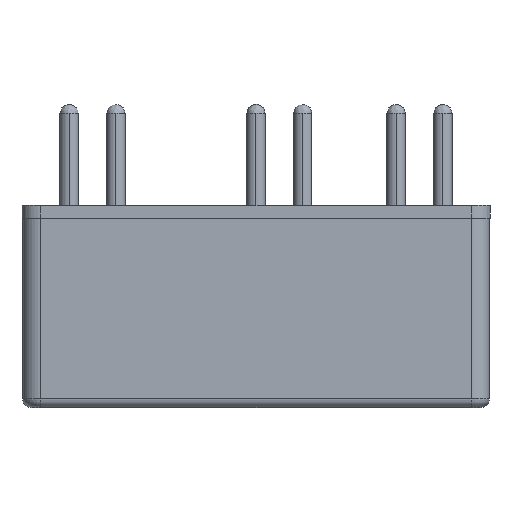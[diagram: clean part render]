
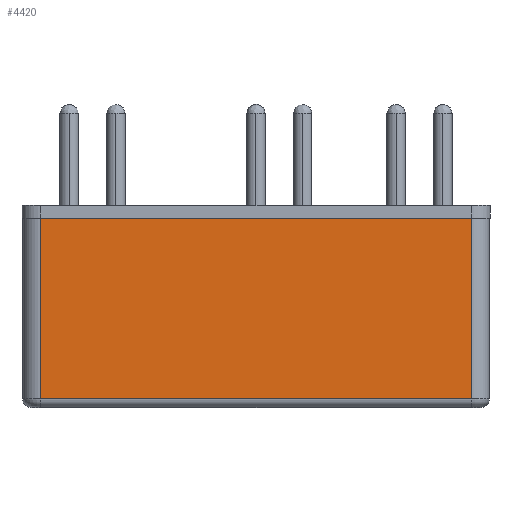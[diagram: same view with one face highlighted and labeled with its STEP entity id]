
A CAD part, left-side view. The second image highlights one B-rep face of the part: STEP entity #4420.
In plain terms, the highlighted planar face has unit normal (-1, 0, 0).
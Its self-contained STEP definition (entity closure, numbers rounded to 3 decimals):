
#576 = DIRECTION ( 'NONE',  ( 0., 1., 0. ) ) ;
#643 = EDGE_CURVE ( 'NONE', #2891, #4336, #3214, .T. ) ;
#679 = EDGE_CURVE ( 'NONE', #5156, #2891, #1855, .T. ) ;
#686 = EDGE_CURVE ( 'NONE', #4900, #5156, #4116, .T. ) ;
#820 = LINE ( 'NONE', #3740, #2013 ) ;
#982 = DIRECTION ( 'NONE',  ( 0., -1., 0. ) ) ;
#1276 = ORIENTED_EDGE ( 'NONE', *, *, #643, .T. ) ;
#1723 = VECTOR ( 'NONE', #5528, 1000. ) ;
#1855 = LINE ( 'NONE', #5514, #4260 ) ;
#2013 = VECTOR ( 'NONE', #576, 1000. ) ;
#2192 = CARTESIAN_POINT ( 'NONE',  ( -25.45, 11.7, 10.3 ) ) ;
#2435 = CARTESIAN_POINT ( 'NONE',  ( -25.45, 11.7, 0.5 ) ) ;
#2550 = DIRECTION ( 'NONE',  ( -1., 0., 0. ) ) ;
#2712 = EDGE_CURVE ( 'NONE', #4336, #4900, #820, .T. ) ;
#2795 = CARTESIAN_POINT ( 'NONE',  ( -25.45, -11.7, 0. ) ) ;
#2891 = VERTEX_POINT ( 'NONE', #3679 ) ;
#2985 = ORIENTED_EDGE ( 'NONE', *, *, #686, .T. ) ;
#3022 = ORIENTED_EDGE ( 'NONE', *, *, #679, .T. ) ;
#3084 = VECTOR ( 'NONE', #5041, 1000. ) ;
#3214 = LINE ( 'NONE', #2795, #3084 ) ;
#3531 = AXIS2_PLACEMENT_3D ( 'NONE', #5261, #2550, #5694 ) ;
#3679 = CARTESIAN_POINT ( 'NONE',  ( -25.45, -11.7, 0.5 ) ) ;
#3740 = CARTESIAN_POINT ( 'NONE',  ( -25.45, 0., 10.3 ) ) ;
#3903 = EDGE_LOOP ( 'NONE', ( #2985, #3022, #1276, #4952 ) ) ;
#4116 = LINE ( 'NONE', #5077, #1723 ) ;
#4260 = VECTOR ( 'NONE', #982, 1000. ) ;
#4336 = VERTEX_POINT ( 'NONE', #5205 ) ;
#4420 = ADVANCED_FACE ( 'NONE', ( #4709 ), #5675, .T. ) ;
#4709 = FACE_OUTER_BOUND ( 'NONE', #3903, .T. ) ;
#4900 = VERTEX_POINT ( 'NONE', #2192 ) ;
#4952 = ORIENTED_EDGE ( 'NONE', *, *, #2712, .T. ) ;
#5041 = DIRECTION ( 'NONE',  ( 0., 0., 1. ) ) ;
#5077 = CARTESIAN_POINT ( 'NONE',  ( -25.45, 11.7, 0. ) ) ;
#5156 = VERTEX_POINT ( 'NONE', #2435 ) ;
#5205 = CARTESIAN_POINT ( 'NONE',  ( -25.45, -11.7, 10.3 ) ) ;
#5261 = CARTESIAN_POINT ( 'NONE',  ( -25.45, -12.7, 0. ) ) ;
#5514 = CARTESIAN_POINT ( 'NONE',  ( -25.45, -12.7, 0.5 ) ) ;
#5528 = DIRECTION ( 'NONE',  ( 0., 0., -1. ) ) ;
#5675 = PLANE ( 'NONE',  #3531 ) ;
#5694 = DIRECTION ( 'NONE',  ( 0., 0., 1. ) ) ;
